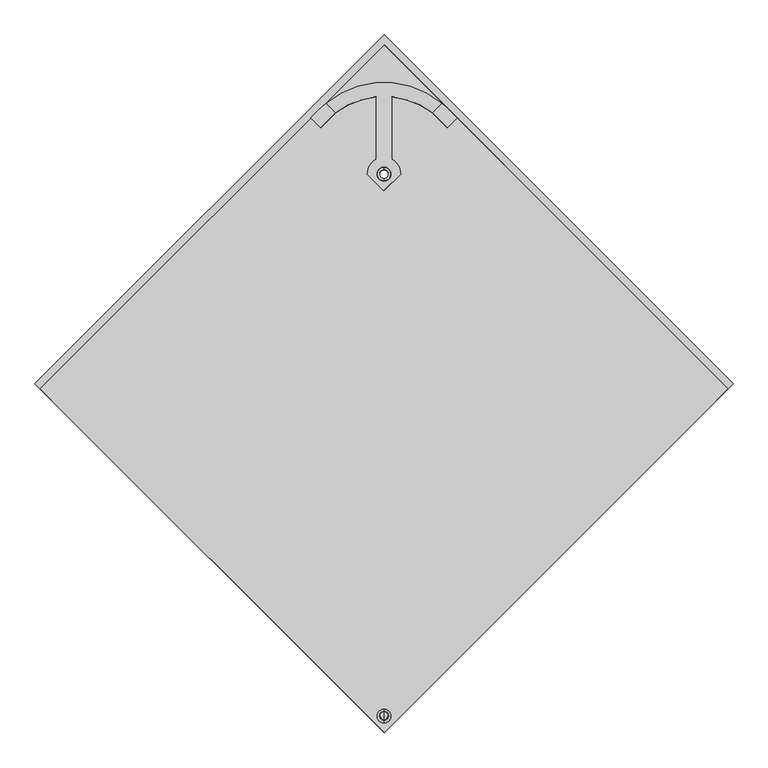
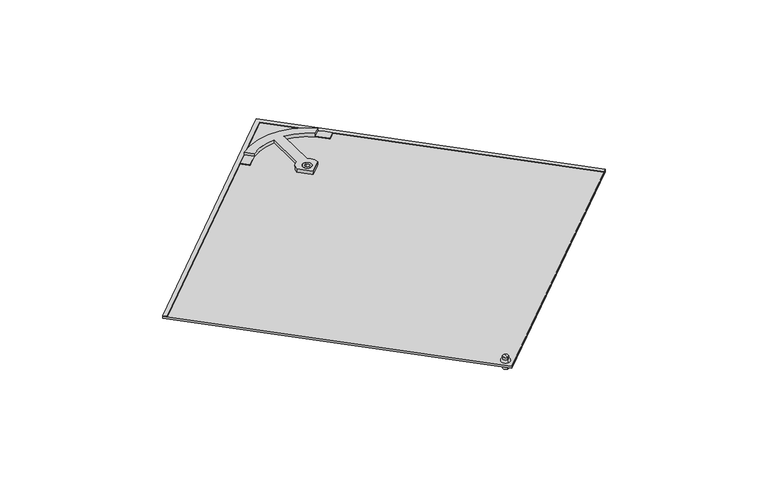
"""IFC4 building model written with IfcOpenShell, lengths in millimetres: proxy geometry, Roofing_Panels_SunStyle_Tuile-Ajustable : Tuile Ajustable  - Terracotta."""

from ifc_helpers import new_model, si_unit, point, frame, frame_2d, origin, place, context, project, spatial, polyline, circle_curve, ellipse_curve, trimmed, segment, composite_curve, outline, extrude, source, transform, mapped, element, save
from ifc_brep_helpers import plane_surface, cylinder_surface, revolved_surface, advanced_brep


def generic_models_39b62107(model_context):
    return source(origin(), model_context, "Body", "SolidModel", [
        advanced_brep(
        [(0.0, -592.202006, 26.2215343), (0.0, -578.8689254, 25.9982384), (0.0, -579.2372345, 4.0063691), (0.0, -592.5703151, 4.229665), (0.0, -597.7012348, 26.3136327), (0.0, -573.3696966, 25.90614), (0.0, -592.7522385, 31.2274395), (0.0, -578.1513756, 30.9829114), (0.0, -585.3177786, 39.1080636), (0.0, -578.0173471, 38.9857996), (0.0, -592.6182101, 39.2303277), (0.0, -585.9037748, 4.118017)],
        [
            (0, 1, circle_curve(frame((0.0, -585.5354657, 26.1098864), z_axis=(0.0, -0.016745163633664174, -0.9998597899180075), x_axis=(0.0, 0.9998597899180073, -0.01674516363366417)), 6.6674751)),
            (1, 2),
            (2, 3, circle_curve(frame((0.0, -585.9037748, 4.118017), z_axis=(0.0, 0.016745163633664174, 0.9998597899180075), x_axis=(0.0, 0.9998597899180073, -0.01674516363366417)), 6.6674751)),
            (3, 0),
            (1, 0, circle_curve(frame((0.0, -585.5354657, 26.1098864), z_axis=(0.0, -0.016745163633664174, -0.9998597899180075), x_axis=(0.0, 0.9998597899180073, -0.01674516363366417)), 6.6674751)),
            (3, 2, circle_curve(frame((0.0, -585.9037748, 4.118017), z_axis=(0.0, 0.016745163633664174, 0.9998597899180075), x_axis=(0.0, 0.9998597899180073, -0.01674516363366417)), 6.6674751)),
            (4, 5, circle_curve(frame((0.0, -585.5354657, 26.1098864), z_axis=(0.0, -0.016745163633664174, -0.9998597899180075), x_axis=(0.0, 0.9998597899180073, -0.01674516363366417)), 12.1674751)),
            (5, 1),
            (0, 4),
            (5, 4, circle_curve(frame((0.0, -585.5354657, 26.1098864), z_axis=(0.0, -0.016745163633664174, -0.9998597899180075), x_axis=(0.0, 0.9998597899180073, -0.01674516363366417)), 12.1674751)),
            (6, 7, circle_curve(frame((0.0, -585.451807, 31.1051755), z_axis=(0.0, -0.016745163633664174, -0.9998597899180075), x_axis=(0.0, 0.9998597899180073, -0.01674516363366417)), 7.3014552)),
            (7, 5, circle_curve(frame((0.0, -578.4555735, 25.90614), z_axis=(-1.0, 0.0, 0.0), x_axis=(0.0, -1.0, 0.0)), 5.0858769)),
            (4, 6, circle_curve(frame((0.0, -592.6182101, 26.1433289), z_axis=(-1.0, 0.0, 0.0), x_axis=(0.0, 0.9994391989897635, -0.03348563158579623)), 5.0858769)),
            (7, 6, circle_curve(frame((0.0, -585.451807, 31.1051755), z_axis=(0.0, -0.016745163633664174, -0.9998597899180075), x_axis=(0.0, 0.9998597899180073, -0.01674516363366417)), 7.3014552)),
            (8, 9),
            (9, 10, circle_curve(frame((0.0, -585.3177786, 39.1080636), z_axis=(0.0, 0.016745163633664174, 0.9998597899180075), x_axis=(0.0, 0.9998597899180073, -0.01674516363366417)), 7.3014552)),
            (10, 8),
            (10, 9, circle_curve(frame((0.0, -585.3177786, 39.1080636), z_axis=(0.0, 0.016745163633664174, 0.9998597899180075), x_axis=(0.0, 0.9998597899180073, -0.01674516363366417)), 7.3014552)),
            (2, 11),
            (11, 3),
            (9, 7),
            (6, 10),
        ],
        [
            cylinder_surface(frame((0.0, -585.3177786, 39.1080636), z_axis=(0.0, 0.01674516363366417, 0.9998597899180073), x_axis=(0.0, 0.9998597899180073, -0.01674516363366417)), 6.6674751),
            plane_surface(frame((0.0, -585.5354657, 26.1098864), z_axis=(0.0, -0.016745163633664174, -0.9998597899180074), x_axis=(0.0, 0.9998597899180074, -0.016745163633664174))),
            revolved_surface(trimmed(ellipse_curve(frame((0.0, -578.4555735, 25.90614), z_axis=(1.0, 0.0, 0.0), x_axis=(0.0, -1.0, 0.0)), 5.0858769, 5.0858769), [point((0.0, -573.3696966, 25.90614))], [point((0.0, -578.1513756, 30.9829114))], True, "CARTESIAN"), (0.0, -585.3177786, 39.1080636), (0.0, 0.01674516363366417, 0.9998597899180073)),
            plane_surface(frame((0.0, -585.3177786, 39.1080636), z_axis=(0.0, 0.016745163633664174, 0.9998597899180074), x_axis=(0.0, 0.9998597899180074, -0.016745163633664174))),
            plane_surface(frame((0.0, -585.9037748, 4.118017), z_axis=(0.0, -0.016745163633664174, -0.9998597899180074), x_axis=(0.0, 0.9998597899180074, -0.016745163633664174))),
            cylinder_surface(frame((0.0, -585.3177786, 39.1080636), z_axis=(0.0, 0.01674516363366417, 0.9998597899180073), x_axis=(0.0, 0.9998597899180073, -0.01674516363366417)), 7.3014552),
        ],
        [
            (0, [[1, 2, 3, 4]]),
            (0, [[5, -4, 6, -2]]),
            (1, [[7, 8, -1, 9]]),
            (1, [[10, -9, -5, -8]]),
            (2, [[11, 12, -7, 13]]),
            (2, [[14, -13, -10, -12]]),
            (3, [[15, 16, 17]]),
            (3, [[-17, 18, -15]]),
            (4, [[-3, 19, 20]]),
            (4, [[-6, -20, -19]]),
            (5, [[-16, 21, -11, 22]]),
            (5, [[-18, -22, -14, -21]]),
        ],
    ),
        advanced_brep(
        [(0.0, 361.8961325, 20.2441668), (0.0, 377.2289335, 19.9873805), (0.0, 381.7283021, 19.9120273), (0.0, 357.3967639, 20.31952), (0.0, 361.6282103, 4.2464102), (0.0, 376.9610105, 3.9896239), (0.0, 357.1288413, 4.3217634), (0.0, 381.4603795, 3.9142707)],
        [
            (0, 1, circle_curve(frame((0.0, 369.562533, 20.1157737), z_axis=(0.0, -0.016745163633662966, -0.9998597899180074), x_axis=(0.0, 0.9998597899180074, -0.016745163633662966)), 7.6674755)),
            (1, 2),
            (2, 3, circle_curve(frame((0.0, 369.562533, 20.1157737), z_axis=(0.0, 0.016745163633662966, 0.9998597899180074), x_axis=(0.0, 0.9998597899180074, -0.016745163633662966)), 12.1674751)),
            (3, 0),
            (1, 0, circle_curve(frame((0.0, 369.562533, 20.1157737), z_axis=(0.0, -0.016745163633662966, -0.9998597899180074), x_axis=(0.0, 0.9998597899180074, -0.016745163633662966)), 7.6674755)),
            (3, 2, circle_curve(frame((0.0, 369.562533, 20.1157737), z_axis=(0.0, 0.016745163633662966, 0.9998597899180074), x_axis=(0.0, 0.9998597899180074, -0.016745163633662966)), 12.1674751)),
            (4, 5, circle_curve(frame((0.0, 369.2946104, 4.118017), z_axis=(0.0, -0.016745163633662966, -0.9998597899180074), x_axis=(0.0, 0.9998597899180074, -0.016745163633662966)), 7.6674751)),
            (5, 1),
            (0, 4),
            (5, 4, circle_curve(frame((0.0, 369.2946104, 4.118017), z_axis=(0.0, -0.016745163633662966, -0.9998597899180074), x_axis=(0.0, 0.9998597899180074, -0.016745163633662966)), 7.6674751)),
            (6, 7, circle_curve(frame((0.0, 369.2946104, 4.118017), z_axis=(0.0, -0.016745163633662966, -0.9998597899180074), x_axis=(0.0, 0.9998597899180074, -0.016745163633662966)), 12.1674751)),
            (7, 5),
            (4, 6),
            (7, 6, circle_curve(frame((0.0, 369.2946104, 4.118017), z_axis=(0.0, -0.016745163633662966, -0.9998597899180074), x_axis=(0.0, 0.9998597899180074, -0.016745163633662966)), 12.1674751)),
            (2, 7),
            (6, 3),
        ],
        [
            plane_surface(frame((0.0, 369.562533, 20.1157737), z_axis=(0.0, 0.016745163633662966, 0.9998597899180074), x_axis=(0.0, 0.9998597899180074, -0.016745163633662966))),
            revolved_surface(polyline([(0.0, 377.2289330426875, 19.987380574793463), (0.0, 376.96101042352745, 3.989623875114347)]), (0.0, 369.562533, 20.1157737), (0.0, 0.016745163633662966, 0.9998597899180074)),
            plane_surface(frame((0.0, 369.2946104, 4.118017), z_axis=(0.0, -0.016745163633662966, -0.9998597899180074), x_axis=(0.0, 0.9998597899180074, -0.016745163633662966))),
            cylinder_surface(frame((0.0, 369.562533, 20.1157737), z_axis=(0.0, 0.016745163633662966, 0.9998597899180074), x_axis=(0.0, 0.9998597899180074, -0.016745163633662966)), 12.1674751),
        ],
        [
            (0, [[1, 2, 3, 4]]),
            (0, [[5, -4, 6, -2]]),
            (1, [[7, 8, -1, 9]]),
            (1, [[10, -9, -5, -8]]),
            (2, [[11, 12, -7, 13]]),
            (2, [[14, -13, -10, -12]]),
            (3, [[-3, 15, -11, 16]]),
            (3, [[-6, -16, -14, -15]]),
        ],
    ),
        extrude(outline(polyline([(0.0, -11.9999999), (0.0, 0.0), (858.0626589, 0.0), (858.1829764, 858.0626505), (870.1829763, 858.0609679), (870.0609764, -12.0), (0.0, -11.9999999)])), frame((606.7847845, -8.5982257, 16.4476231), z_axis=(0.0, 0.016745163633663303, 0.9998597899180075), x_axis=(-0.7071563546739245, 0.7069580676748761, -0.011839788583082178)), (0.0, 0.0, 1.0), 1.5),
        extrude(outline(polyline([(995.0941908, 0.0), (995.2161906, -870.0609679), (125.1552142, -870.0609678), (125.0332144, 0.0), (995.0941908, 0.0)]), holes=[composite_curve([segment(trimmed(circle_curve(frame_2d((146.1396988, -849.0730846)), 8.0), [point((140.4824479, -843.4166269))], [point((151.7969496, -854.7295422))], True, "CARTESIAN"), True, "CONTINUOUS"), segment(trimmed(circle_curve(frame_2d((146.1396988, -849.0730846)), 8.0), [point((151.7969496, -854.7295422))], [point((140.4824479, -843.4166269))], True, "CARTESIAN"), True, "CONTINUOUS")], self_intersect=False), composite_curve([segment(trimmed(circle_curve(frame_2d((821.5432581, -173.5748135)), 12.0), [point((813.0573819, -165.0901271))], [point((830.0291344, -182.0595))], True, "CARTESIAN"), True, "CONTINUOUS"), segment(trimmed(circle_curve(frame_2d((821.5432581, -173.5748135)), 12.0), [point((830.0291344, -182.0595))], [point((813.0573819, -165.0901271))], True, "CARTESIAN"), True, "CONTINUOUS")], self_intersect=False)]), frame((-703.686858, -88.6072499, 11.7867338), z_axis=(0.0, 0.01674516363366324, 0.9998597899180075), x_axis=(0.707156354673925, 0.7069580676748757, -0.011839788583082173)), (0.0, 0.0, 1.0), 6.0),
        advanced_brep(
        [(-102.0275718, 494.9998575, 18.0150106), (-84.944396, 477.9190769, 18.3010712), (-13.3, 505.8109871, 17.8339511), (-13.3, 395.9341043, 19.6741155), (-29.3894281, 369.7299846, 20.1129693), (0.0, 340.3446773, 20.6051), (29.3894281, 369.7299846, 20.1129693), (13.3, 395.9341043, 19.6741155), (13.3, 505.8109871, 17.8339511), (84.944396, 477.9190769, 18.3010712), (102.0275718, 494.9998575, 18.0150106), (-12.0, 369.7299846, 20.1129693), (12.0, 369.7299846, 20.1129693), (-102.0275718, 494.8324058, 8.0164127), (102.0275718, 494.8324058, 8.0164127), (114.2509691, 483.797483, 8.2012202), (128.9467134, 469.1058594, 8.4472683), (111.2690438, 451.4306685, 8.7432838), (84.9431983, 477.7528228, 8.3024532), (13.3, 505.6435355, 7.8353532), (13.3, 395.7666527, 9.6755176), (29.3894281, 369.562533, 10.1143714), (0.0, 340.1772257, 10.6065021), (-29.3894281, 369.562533, 10.1143714), (-13.3, 395.7666527, 9.6755176), (-13.3, 505.6435355, 7.8353532), (-84.944396, 477.7516253, 8.3024733), (-111.2690438, 451.4306685, 8.7432838), (-128.9467134, 469.1058594, 8.4472683), (-114.2509691, 483.797483, 8.2012202), (-12.0, 369.562533, 10.1143714), (12.0, 369.562533, 10.1143714), (102.0275718, 494.8742688, 10.5160622), (-102.0275718, 494.8742688, 10.5160622), (128.9467134, 469.1477223, 10.9469178), (114.2509691, 483.8393459, 10.7008697), (84.944396, 477.7934882, 10.8021227), (111.2690438, 451.4725314, 11.2429333), (-128.9467134, 469.1477223, 10.9469178), (-111.2690438, 451.4725314, 11.2429333), (-84.9431983, 477.7946858, 10.8021027), (-114.2509691, 483.8393459, 10.7008697)],
        [
            (0, 1),
            (1, 2, circle_curve(frame((0.0, 365.7229584, 20.180077), z_axis=(0.0, -0.01674516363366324, -0.9998597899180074), x_axis=(1.0, 0.0, 0.0)), 140.737522)),
            (2, 3),
            (3, 4, circle_curve(frame((0.0, 369.7299846, 20.1129693), z_axis=(0.0, 0.01674516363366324, 0.9998597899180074), x_axis=(1.0, 0.0, 0.0)), 29.3894281)),
            (4, 5),
            (5, 6),
            (6, 7, circle_curve(frame((0.0, 369.7299846, 20.1129693), z_axis=(0.0, 0.01674516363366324, 0.9998597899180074), x_axis=(1.0, 0.0, 0.0)), 29.3894281)),
            (7, 8),
            (8, 9, circle_curve(frame((0.0, 365.7229584, 20.180077), z_axis=(0.0, -0.01674516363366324, -0.9998597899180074), x_axis=(1.0, 0.0, 0.0)), 140.737522)),
            (9, 10),
            (10, 0, circle_curve(frame((0.0, 369.7299846, 20.1129693), z_axis=(0.0, 0.01674516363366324, 0.9998597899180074), x_axis=(1.0, 0.0, 0.0)), 161.57527)),
            (11, 12, circle_curve(frame((0.0, 369.7299846, 20.1129693), z_axis=(0.0, -0.01674516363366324, -0.9998597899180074), x_axis=(1.0, 0.0, 0.0)), 12.0)),
            (12, 11, circle_curve(frame((0.0, 369.7299846, 20.1129693), z_axis=(0.0, -0.01674516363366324, -0.9998597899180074), x_axis=(1.0, 0.0, 0.0)), 12.0)),
            (13, 14, circle_curve(frame((0.0, 369.562533, 10.1143714), z_axis=(0.0, -0.01674516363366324, -0.9998597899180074), x_axis=(1.0, 0.0, 0.0)), 161.57527)),
            (14, 15, circle_curve(frame((0.0, 369.562533, 10.1143714), z_axis=(0.0, -0.01674516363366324, -0.9998597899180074), x_axis=(1.0, 0.0, 0.0)), 161.57527)),
            (15, 16),
            (16, 17),
            (17, 18),
            (18, 19, circle_curve(frame((0.0, 365.5555068, 10.1814791), z_axis=(0.0, 0.01674516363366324, 0.9998597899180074), x_axis=(1.0, 0.0, 0.0)), 140.737522)),
            (19, 20),
            (20, 21, circle_curve(frame((0.0, 369.562533, 10.1143714), z_axis=(0.0, -0.01674516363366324, -0.9998597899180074), x_axis=(1.0, 0.0, 0.0)), 29.3894281)),
            (21, 22),
            (22, 23),
            (23, 24, circle_curve(frame((0.0, 369.562533, 10.1143714), z_axis=(0.0, -0.01674516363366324, -0.9998597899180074), x_axis=(1.0, 0.0, 0.0)), 29.3894281)),
            (24, 25),
            (25, 26, circle_curve(frame((0.0, 365.5555068, 10.1814791), z_axis=(0.0, 0.01674516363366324, 0.9998597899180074), x_axis=(1.0, 0.0, 0.0)), 140.737522)),
            (26, 27),
            (27, 28),
            (28, 29),
            (29, 13, circle_curve(frame((0.0, 369.562533, 10.1143714), z_axis=(0.0, -0.01674516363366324, -0.9998597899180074), x_axis=(-1.0, 0.0, 0.0)), 161.57527)),
            (30, 31, circle_curve(frame((0.0, 369.562533, 10.1143714), z_axis=(0.0, 0.01674516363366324, 0.9998597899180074), x_axis=(1.0, 0.0, 0.0)), 12.0)),
            (31, 30, circle_curve(frame((0.0, 369.562533, 10.1143714), z_axis=(0.0, 0.01674516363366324, 0.9998597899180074), x_axis=(1.0, 0.0, 0.0)), 12.0)),
            (2, 25),
            (24, 3),
            (23, 4),
            (22, 5),
            (21, 6),
            (20, 7),
            (19, 8),
            (10, 32),
            (32, 14),
            (13, 33),
            (33, 0),
            (11, 30),
            (31, 12),
            (34, 35),
            (35, 32, circle_curve(frame((0.0, 369.6043959, 12.6140208), z_axis=(0.0, 0.01674516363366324, 0.9998597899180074), x_axis=(1.0, 0.0, 0.0)), 161.57527)),
            (32, 36),
            (36, 37),
            (37, 34),
            (38, 39),
            (39, 40),
            (40, 33),
            (33, 41, circle_curve(frame((0.0, 369.6043959, 12.6140208), z_axis=(0.0, 0.01674516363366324, 0.9998597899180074), x_axis=(-1.0, 0.0, 0.0)), 161.57527)),
            (41, 38),
            (34, 16),
            (15, 35),
            (37, 17),
            (36, 18),
            (38, 28),
            (27, 39),
            (26, 40),
            (29, 41),
            (40, 1),
            (9, 36),
        ],
        [
            plane_surface(frame((-102.0275718, 494.9998575, 18.0150106), z_axis=(0.0, 0.01674516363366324, 0.9998597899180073), x_axis=(0.7071067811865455, -0.7070076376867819, 0.011840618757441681))),
            plane_surface(frame((-102.0275718, 494.8324058, 8.0164127), z_axis=(0.0, -0.01674516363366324, -0.9998597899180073), x_axis=(-0.7071067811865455, 0.7070076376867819, -0.011840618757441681))),
            plane_surface(frame((-13.3, 505.8109871, 17.8339511), z_axis=(-1.0000000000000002, 0.0, 0.0), x_axis=(0.0, -0.01674516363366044, -0.9998597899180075))),
            cylinder_surface(frame((0.0, 369.562533, 10.1143714), z_axis=(0.0, 0.01674516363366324, 0.9998597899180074), x_axis=(1.0, 0.0, 0.0)), 29.3894281),
            plane_surface(frame((-29.3894281, 369.7299846, 20.1129693), z_axis=(-0.7071067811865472, -0.7070076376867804, 0.011840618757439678), x_axis=(0.0, -0.016745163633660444, -0.9998597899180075))),
            plane_surface(frame((0.0, 340.3446773, 20.6051), z_axis=(0.7071067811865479, -0.7070076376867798, 0.011840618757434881), x_axis=(0.0, -0.01674516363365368, -0.9998597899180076))),
            plane_surface(frame((13.3, 395.9341043, 19.6741155), z_axis=(1.0000000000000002, 0.0, 0.0), x_axis=(0.0, -0.016745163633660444, -0.9998597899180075))),
            cylinder_surface(frame((0.0, 369.562533, 10.1143714), z_axis=(0.0, 0.01674516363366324, 0.9998597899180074), x_axis=(1.0, 0.0, 0.0)), 161.57527),
            revolved_surface(polyline([(12.0, 369.562533, 10.1143714), (12.0, 369.72998463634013, 20.112969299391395)]), (0.0, 369.562533, 10.1143714), (0.0, -0.01674516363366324, -0.9998597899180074)),
            plane_surface(frame((128.9467134, 469.1477223, 10.9469178), z_axis=(0.0, 0.01674516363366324, 0.9998597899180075), x_axis=(-0.7071563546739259, 0.7069580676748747, -0.011839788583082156))),
            plane_surface(frame((128.9467134, 469.1477223, 10.9469178), z_axis=(0.7070572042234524, 0.7070572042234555, -0.011841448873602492), x_axis=(0.0, -0.016745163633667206, -0.9998597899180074))),
            plane_surface(frame((111.2690438, 451.4725314, 11.2429333), z_axis=(0.7071067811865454, -0.7070076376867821, 0.011840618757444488), x_axis=(0.0, -0.016745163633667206, -0.9998597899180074))),
            plane_surface(frame((84.9431983, 477.7946858, 10.8021027), z_axis=(-0.7071067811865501, -0.7070076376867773, 0.011840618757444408), x_axis=(0.0, -0.016745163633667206, -0.9998597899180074))),
            plane_surface(frame((-128.9467134, 469.1477223, 10.9469178), z_axis=(-0.7071067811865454, -0.7070076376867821, 0.011840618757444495), x_axis=(0.0, -0.016745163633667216, -0.9998597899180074))),
            plane_surface(frame((-111.2690438, 451.4725314, 11.2429333), z_axis=(0.7071067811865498, -0.7070076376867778, 0.011840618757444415), x_axis=(0.0, -0.016745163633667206, -0.9998597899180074))),
            cylinder_surface(frame((0.0, 369.562533, 10.1143714), z_axis=(0.0, 0.01674516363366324, 0.9998597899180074), x_axis=(-1.0, 0.0, 0.0)), 161.57527),
            plane_surface(frame((-114.2509691, 483.8393459, 10.7008697), z_axis=(-0.7070572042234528, 0.7070572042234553, -0.011841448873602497), x_axis=(0.0, -0.016745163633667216, -0.9998597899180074))),
            plane_surface(frame((-102.0275718, 494.9998575, 18.0150106), z_axis=(-0.7071067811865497, -0.7070076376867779, 0.01184061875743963), x_axis=(0.0, -0.01674516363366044, -0.9998597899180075))),
            plane_surface(frame((84.944396, 477.9190769, 18.3010712), z_axis=(0.7071067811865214, -0.7070076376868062, 0.011840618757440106), x_axis=(0.0, -0.01674516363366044, -0.9998597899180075))),
            revolved_surface(polyline([(140.737522, 365.5555068, 10.1814791), (140.737522, 365.72295843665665, 20.180077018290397)]), (0.0, 365.5555068, 10.1814791), (0.0, -0.01674516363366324, -0.9998597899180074)),
            revolved_surface(polyline([(140.737522, 365.55550679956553, 10.181479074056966), (140.737522, 365.72295843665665, 20.180077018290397)]), (0.0, 365.5555068, 10.1814791), (0.0, -0.01674516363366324, -0.9998597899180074)),
        ],
        [
            (0, [[1, 2, 3, 4, 5, 6, 7, 8, 9, 10, 11], [12, 13]]),
            (1, [[14, 15, 16, 17, 18, 19, 20, 21, 22, 23, 24, 25, 26, 27, 28, 29, 30], [31, 32]]),
            (2, [[-3, 33, -25, 34]]),
            (3, [[-4, -34, -24, 35]]),
            (4, [[-5, -35, -23, 36]]),
            (5, [[-6, -36, -22, 37]]),
            (3, [[-7, -37, -21, 38]]),
            (6, [[-8, -38, -20, 39]]),
            (7, [[-11, 40, 41, -14, 42, 43]]),
            (8, [[-12, 44, -32, 45]]),
            (8, [[-13, -45, -31, -44]]),
            (9, [[46, 47, 48, 49, 50]]),
            (9, [[51, 52, 53, 54, 55]]),
            (10, [[-46, 56, -16, 57]]),
            (11, [[-50, 58, -17, -56]]),
            (7, [[-47, -57, -15, -41]]),
            (12, [[-49, 59, -18, -58]]),
            (13, [[-51, 60, -28, 61]]),
            (14, [[-52, -61, -27, 62]]),
            (15, [[-54, -42, -30, 63]]),
            (16, [[-55, -63, -29, -60]]),
            (17, [[-1, -43, -53, 64]]),
            (18, [[-10, 65, -48, -40]]),
            (19, [[-2, -64, -62, -26, -33]]),
            (20, [[-9, -39, -19, -59, -65]]),
        ],
    ),
    ])


if __name__ == "__main__":
    model = new_model("IFC4")
    model_context = context("Model", 3, world=origin())
    ifc_project = project(units=[si_unit("LENGTHUNIT", "METRE", prefix="MILLI")], contexts=[model_context])
    site = spatial("IfcSite", under=ifc_project)
    building = spatial("IfcBuilding", under=site)
    placement = place(None, origin())
    generic_models_shape = generic_models_39b62107(model_context)
    element("IfcBuildingElementProxy", 1, Name="Roofing_Panels_SunStyle_Tuile-Ajustable : Tuile Ajustable  - Terracotta", ObjectType="Roofing_Panels_SunStyle_Tuile-Ajustable : Tuile Ajustable  - Terracotta", at=placement, inside=building, context=model_context, shape_type="MappedRepresentation", body=[
        mapped(generic_models_shape, transform((0.0, 0.0, 0.0), x_axis=(1.0, 0.0, 0.0), y_axis=(0.0, 1.0, 0.0), z_axis=(0.0, 0.0, 1.0))),
    ])
    save(model, "model.ifc")
